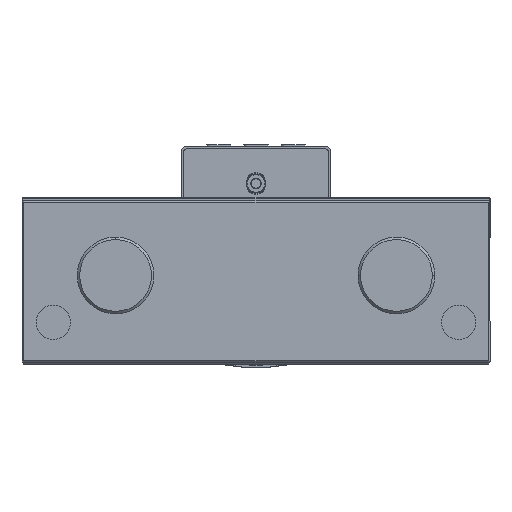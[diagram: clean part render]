
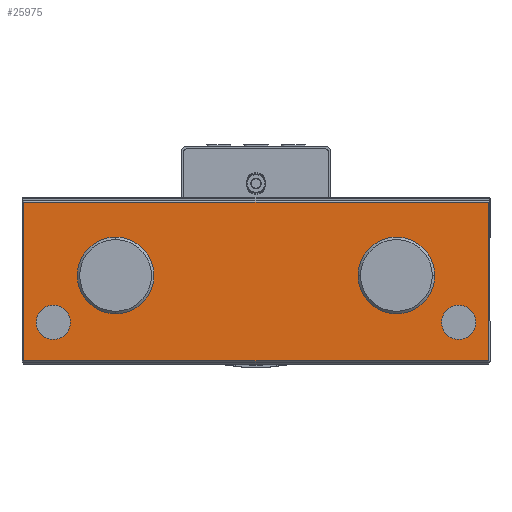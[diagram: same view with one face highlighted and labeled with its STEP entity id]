
A CAD part, top view. The second image highlights one B-rep face of the part: STEP entity #25975.
In plain terms, the highlighted planar face has unit normal (0, 0, 1).
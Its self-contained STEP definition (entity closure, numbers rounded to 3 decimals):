
#419 = CARTESIAN_POINT ( 'NONE',  ( -32.7, 28., 290. ) ) ;
#438 = ORIENTED_EDGE ( 'NONE', *, *, #13719, .T. ) ;
#464 = FACE_BOUND ( 'NONE', #10800, .T. ) ;
#827 = VERTEX_POINT ( 'NONE', #9485 ) ;
#974 = EDGE_CURVE ( 'NONE', #24468, #30249, #15114, .T. ) ;
#1378 = DIRECTION ( 'NONE',  ( 0., 0., -1. ) ) ;
#2612 = DIRECTION ( 'NONE',  ( 1., 0., 0. ) ) ;
#2718 = ORIENTED_EDGE ( 'NONE', *, *, #13984, .T. ) ;
#2880 = CIRCLE ( 'NONE', #13100, 5.5 ) ;
#3011 = DIRECTION ( 'NONE',  ( -1., 0., 0. ) ) ;
#3240 = EDGE_LOOP ( 'NONE', ( #22872, #24794 ) ) ;
#3448 = CARTESIAN_POINT ( 'NONE',  ( -59.5, 13., 290. ) ) ;
#3631 = LINE ( 'NONE', #13773, #30805 ) ;
#3988 = VECTOR ( 'NONE', #2612, 1000. ) ;
#5528 = DIRECTION ( 'NONE',  ( 0., 1., 0. ) ) ;
#5643 = ORIENTED_EDGE ( 'NONE', *, *, #31896, .T. ) ;
#5724 = CARTESIAN_POINT ( 'NONE',  ( 74.4, 0.6, 290. ) ) ;
#5976 = VERTEX_POINT ( 'NONE', #15143 ) ;
#5982 = EDGE_CURVE ( 'NONE', #5976, #827, #7719, .T. ) ;
#6016 = DIRECTION ( 'NONE',  ( 0., 0., -1. ) ) ;
#6090 = DIRECTION ( 'NONE',  ( -1., 0., 0. ) ) ;
#6136 = CARTESIAN_POINT ( 'NONE',  ( -65., 13., 290. ) ) ;
#6282 = CARTESIAN_POINT ( 'NONE',  ( 45., 28., 290. ) ) ;
#7168 = ORIENTED_EDGE ( 'NONE', *, *, #23390, .T. ) ;
#7653 = FACE_BOUND ( 'NONE', #29844, .T. ) ;
#7719 = LINE ( 'NONE', #9749, #14063 ) ;
#8018 = DIRECTION ( 'NONE',  ( 0., 0., -1. ) ) ;
#8042 = CARTESIAN_POINT ( 'NONE',  ( 75., 0.6, 290. ) ) ;
#8233 = VECTOR ( 'NONE', #5528, 1000. ) ;
#8958 = ORIENTED_EDGE ( 'NONE', *, *, #10331, .T. ) ;
#8965 = AXIS2_PLACEMENT_3D ( 'NONE', #12442, #30575, #15098 ) ;
#9028 = DIRECTION ( 'NONE',  ( -1., 0., 0. ) ) ;
#9184 = CIRCLE ( 'NONE', #29581, 12.3 ) ;
#9460 = ORIENTED_EDGE ( 'NONE', *, *, #5982, .T. ) ;
#9484 = DIRECTION ( 'NONE',  ( 0., 0., -1. ) ) ;
#9485 = CARTESIAN_POINT ( 'NONE',  ( -74.4, 0.6, 290. ) ) ;
#9671 = DIRECTION ( 'NONE',  ( 0., 0., -1. ) ) ;
#9749 = CARTESIAN_POINT ( 'NONE',  ( -74.4, 0., 290. ) ) ;
#9947 = CARTESIAN_POINT ( 'NONE',  ( 57.3, 28., 290. ) ) ;
#10202 = CARTESIAN_POINT ( 'NONE',  ( -70.5, 13., 290. ) ) ;
#10331 = EDGE_CURVE ( 'NONE', #30249, #24468, #23726, .T. ) ;
#10800 = EDGE_LOOP ( 'NONE', ( #27179, #8958 ) ) ;
#10803 = PLANE ( 'NONE',  #33129 ) ;
#11076 = CARTESIAN_POINT ( 'NONE',  ( 74.4, 51.4, 290. ) ) ;
#11670 = CARTESIAN_POINT ( 'NONE',  ( -65., 13., 290. ) ) ;
#12442 = CARTESIAN_POINT ( 'NONE',  ( 65., 13., 290. ) ) ;
#13100 = AXIS2_PLACEMENT_3D ( 'NONE', #25362, #9671, #27979 ) ;
#13130 = EDGE_CURVE ( 'NONE', #31865, #26384, #19107, .T. ) ;
#13173 = CARTESIAN_POINT ( 'NONE',  ( 59.5, 13., 290. ) ) ;
#13719 = EDGE_CURVE ( 'NONE', #18062, #32972, #33218, .T. ) ;
#13773 = CARTESIAN_POINT ( 'NONE',  ( -75., 51.4, 290. ) ) ;
#13821 = ORIENTED_EDGE ( 'NONE', *, *, #30978, .T. ) ;
#13984 = EDGE_CURVE ( 'NONE', #827, #31391, #25106, .T. ) ;
#14063 = VECTOR ( 'NONE', #17771, 1000. ) ;
#14362 = DIRECTION ( 'NONE',  ( -1., 0., 0. ) ) ;
#14539 = LINE ( 'NONE', #16364, #8233 ) ;
#14812 = FACE_BOUND ( 'NONE', #23107, .T. ) ;
#15098 = DIRECTION ( 'NONE',  ( -1., 0., 0. ) ) ;
#15114 = CIRCLE ( 'NONE', #16140, 5.5 ) ;
#15143 = CARTESIAN_POINT ( 'NONE',  ( -74.4, 51.4, 290. ) ) ;
#15474 = EDGE_CURVE ( 'NONE', #29030, #29386, #9184, .T. ) ;
#16140 = AXIS2_PLACEMENT_3D ( 'NONE', #6136, #6016, #6090 ) ;
#16182 = DIRECTION ( 'NONE',  ( -1., 0., 0. ) ) ;
#16364 = CARTESIAN_POINT ( 'NONE',  ( 74.4, 52., 290. ) ) ;
#16784 = EDGE_LOOP ( 'NONE', ( #5643, #9460, #2718, #7168 ) ) ;
#17288 = FACE_OUTER_BOUND ( 'NONE', #16784, .T. ) ;
#17446 = CARTESIAN_POINT ( 'NONE',  ( 45., 28., 290. ) ) ;
#17771 = DIRECTION ( 'NONE',  ( 0., -1., 0. ) ) ;
#18062 = VERTEX_POINT ( 'NONE', #19114 ) ;
#19107 = CIRCLE ( 'NONE', #30168, 12.3 ) ;
#19114 = CARTESIAN_POINT ( 'NONE',  ( 70.5, 13., 290. ) ) ;
#20027 = DIRECTION ( 'NONE',  ( -1., 0., 0. ) ) ;
#20576 = AXIS2_PLACEMENT_3D ( 'NONE', #23809, #8018, #26360 ) ;
#21355 = CIRCLE ( 'NONE', #30278, 12.3 ) ;
#22647 = CIRCLE ( 'NONE', #20576, 12.3 ) ;
#22872 = ORIENTED_EDGE ( 'NONE', *, *, #33740, .T. ) ;
#23107 = EDGE_LOOP ( 'NONE', ( #13821, #438 ) ) ;
#23390 = EDGE_CURVE ( 'NONE', #31391, #24014, #14539, .T. ) ;
#23532 = AXIS2_PLACEMENT_3D ( 'NONE', #11670, #29853, #14362 ) ;
#23726 = CIRCLE ( 'NONE', #23532, 5.5 ) ;
#23809 = CARTESIAN_POINT ( 'NONE',  ( -45., 28., 290. ) ) ;
#24014 = VERTEX_POINT ( 'NONE', #11076 ) ;
#24468 = VERTEX_POINT ( 'NONE', #10202 ) ;
#24758 = DIRECTION ( 'NONE',  ( 0., 0., -1. ) ) ;
#24794 = ORIENTED_EDGE ( 'NONE', *, *, #15474, .T. ) ;
#25106 = LINE ( 'NONE', #8042, #3988 ) ;
#25179 = CARTESIAN_POINT ( 'NONE',  ( -45., 28., 290. ) ) ;
#25362 = CARTESIAN_POINT ( 'NONE',  ( 65., 13., 290. ) ) ;
#25711 = EDGE_CURVE ( 'NONE', #26384, #31865, #21355, .T. ) ;
#25975 = ADVANCED_FACE ( 'NONE', ( #17288, #14812, #464, #7653, #27768 ), #10803, .F. ) ;
#26360 = DIRECTION ( 'NONE',  ( -1., 0., 0. ) ) ;
#26384 = VERTEX_POINT ( 'NONE', #9947 ) ;
#26431 = CARTESIAN_POINT ( 'NONE',  ( -75., 0., 290. ) ) ;
#27179 = ORIENTED_EDGE ( 'NONE', *, *, #974, .T. ) ;
#27624 = ORIENTED_EDGE ( 'NONE', *, *, #25711, .T. ) ;
#27768 = FACE_BOUND ( 'NONE', #3240, .T. ) ;
#27789 = DIRECTION ( 'NONE',  ( -1., 0., 0. ) ) ;
#27979 = DIRECTION ( 'NONE',  ( -1., 0., 0. ) ) ;
#28798 = CARTESIAN_POINT ( 'NONE',  ( -57.3, 28., 290. ) ) ;
#29030 = VERTEX_POINT ( 'NONE', #419 ) ;
#29157 = CARTESIAN_POINT ( 'NONE',  ( 32.7, 28., 290. ) ) ;
#29386 = VERTEX_POINT ( 'NONE', #28798 ) ;
#29444 = ORIENTED_EDGE ( 'NONE', *, *, #13130, .T. ) ;
#29581 = AXIS2_PLACEMENT_3D ( 'NONE', #25179, #9484, #27789 ) ;
#29844 = EDGE_LOOP ( 'NONE', ( #29444, #27624 ) ) ;
#29853 = DIRECTION ( 'NONE',  ( 0., 0., -1. ) ) ;
#30168 = AXIS2_PLACEMENT_3D ( 'NONE', #6282, #24758, #9028 ) ;
#30249 = VERTEX_POINT ( 'NONE', #3448 ) ;
#30278 = AXIS2_PLACEMENT_3D ( 'NONE', #17446, #1378, #20027 ) ;
#30575 = DIRECTION ( 'NONE',  ( 0., 0., -1. ) ) ;
#30805 = VECTOR ( 'NONE', #3011, 1000. ) ;
#30978 = EDGE_CURVE ( 'NONE', #32972, #18062, #2880, .T. ) ;
#31391 = VERTEX_POINT ( 'NONE', #5724 ) ;
#31678 = DIRECTION ( 'NONE',  ( 0., 0., -1. ) ) ;
#31865 = VERTEX_POINT ( 'NONE', #29157 ) ;
#31896 = EDGE_CURVE ( 'NONE', #24014, #5976, #3631, .T. ) ;
#32972 = VERTEX_POINT ( 'NONE', #13173 ) ;
#33129 = AXIS2_PLACEMENT_3D ( 'NONE', #26431, #31678, #16182 ) ;
#33218 = CIRCLE ( 'NONE', #8965, 5.5 ) ;
#33740 = EDGE_CURVE ( 'NONE', #29386, #29030, #22647, .T. ) ;
